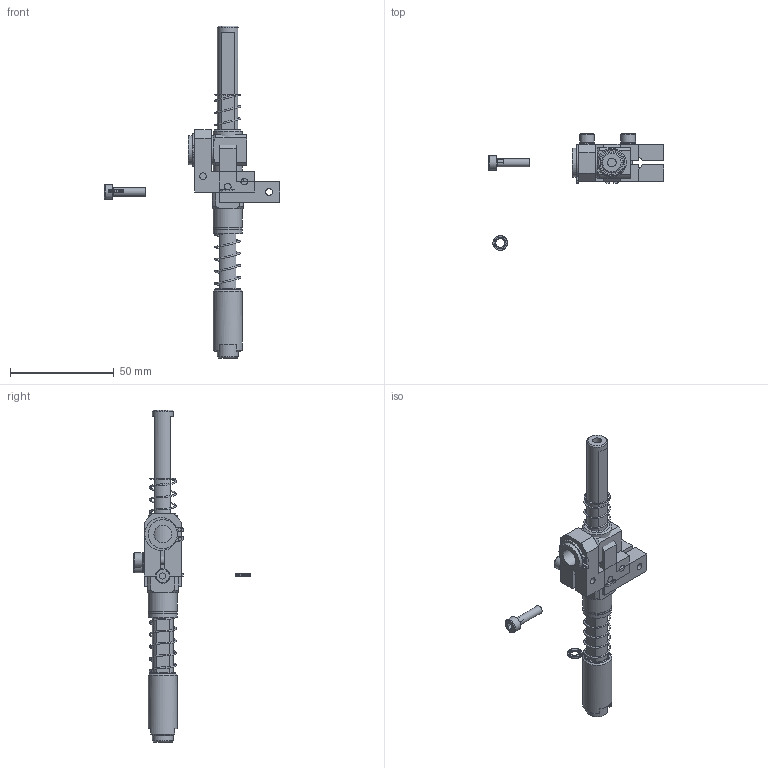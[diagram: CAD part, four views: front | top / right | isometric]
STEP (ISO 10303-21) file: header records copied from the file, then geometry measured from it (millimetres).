
FILE_DESCRIPTION( ( 'STEP AP214' ), '1' );
FILE_NAME( 'C:/Users/Segreteria/Desktop/CA.GGS141840.stp', '2014-07-02T08:12:21', ( ' ' ), ( ' ' ), 'XStep 1.0', ' ', ' ' );
FILE_SCHEMA( ( 'CONFIG_CONTROL_DESIGN) ( )' ) );
Length unit declared in the file: metre
Products named in the file (16): Assem1; GGS-01-02; GGS-02-02; A-Ela  14; molla12x50; V-tcei M  4 x 16; R.4.SCH; 05.01.001.05; 05.01.001.03.14
Bounding box: 84.5 x 56.14 x 160 mm (x, y, z)
Volume: 33469.9 mm3; surface area: 28339.9 mm2
Topology: 29 solids, 32 shells, 873 faces, 2423 edges, 1611 vertices
Faces by surface type: plane 734, cylinder 68, torus 42, cone 29
Full cylindrical faces by diameter (mm): 1.7 x4, 3.242 x4, 4 x3, 4.2 x6, 4.3 x3, 6.2 x2, 7 x8, 8.566 x4, 10 x4, 13.4 x2, 14 x6
Entity records: 10671 total; most frequent: CARTESIAN_POINT 1925, DIRECTION 1816, ORIENTED_EDGE 1664, EDGE_CURVE 832, AXIS2_PLACEMENT_3D 653, VERTEX_POINT 578, LINE 510, VECTOR 510
